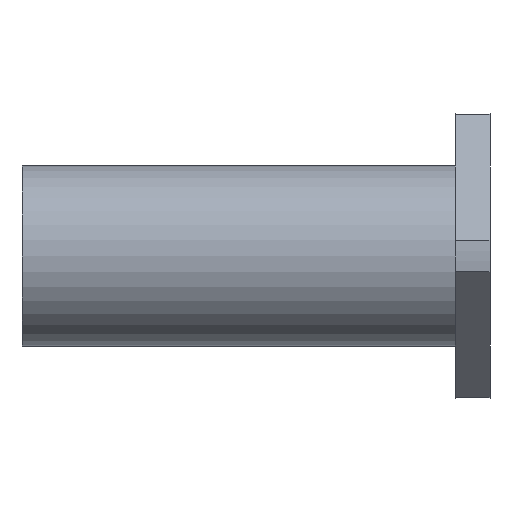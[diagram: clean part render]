
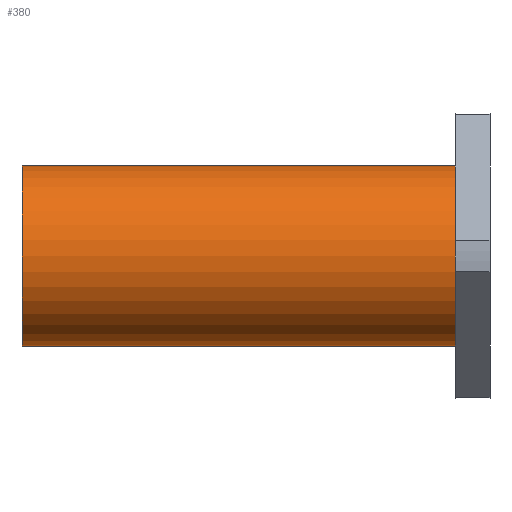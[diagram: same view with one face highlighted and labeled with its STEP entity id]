
A CAD part, front view. The second image highlights one B-rep face of the part: STEP entity #380.
In plain terms, the highlighted cylindrical face has radius 26 mm (diameter 52 mm), a full revolution.
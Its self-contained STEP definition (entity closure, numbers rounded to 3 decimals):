
#83=ORIENTED_EDGE('',*,*,#171,.T.);
#84=ORIENTED_EDGE('',*,*,#172,.F.);
#171=EDGE_CURVE('',#215,#215,#245,.T.);
#172=EDGE_CURVE('',#216,#216,#246,.T.);
#215=VERTEX_POINT('',#638);
#216=VERTEX_POINT('',#640);
#245=CIRCLE('',#433,26.);
#246=CIRCLE('',#434,26.);
#270=EDGE_LOOP('',(#83));
#271=EDGE_LOOP('',(#84));
#320=FACE_BOUND('',#270,.T.);
#321=FACE_BOUND('',#271,.T.);
#362=CYLINDRICAL_SURFACE('',#432,26.);
#380=ADVANCED_FACE('',(#320,#321),#362,.T.);
#432=AXIS2_PLACEMENT_3D('',#636,#514,#515);
#433=AXIS2_PLACEMENT_3D('',#637,#516,#517);
#434=AXIS2_PLACEMENT_3D('',#639,#518,#519);
#514=DIRECTION('',(-1.,0.,0.));
#515=DIRECTION('',(0.,0.,1.));
#516=DIRECTION('',(1.,0.,0.));
#517=DIRECTION('',(0.,0.,-1.));
#518=DIRECTION('',(1.,0.,0.));
#519=DIRECTION('',(0.,0.,-1.));
#636=CARTESIAN_POINT('',(67.5,0.,0.));
#637=CARTESIAN_POINT('',(-67.5,0.,0.));
#638=CARTESIAN_POINT('',(-67.5,0.,-26.));
#639=CARTESIAN_POINT('',(57.5,0.,0.));
#640=CARTESIAN_POINT('',(57.5,0.,-26.));
